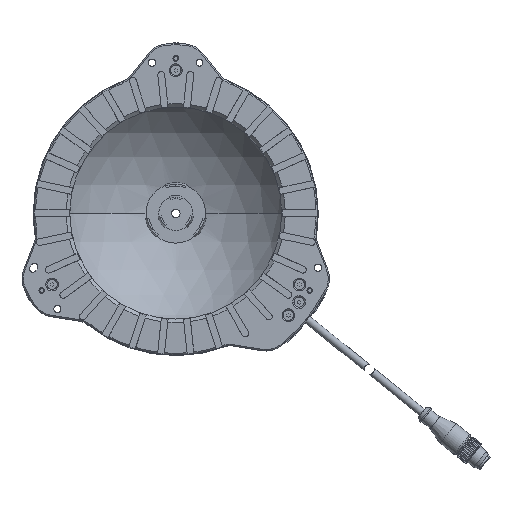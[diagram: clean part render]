
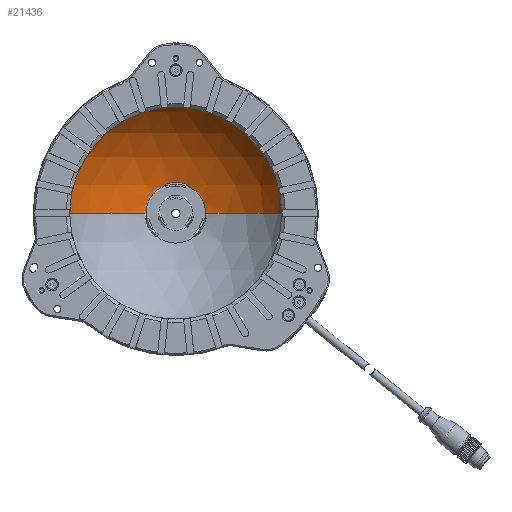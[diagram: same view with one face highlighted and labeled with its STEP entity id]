
A CAD part, top view. The second image highlights one B-rep face of the part: STEP entity #21436.
In plain terms, the highlighted spherical face has radius 77.5 mm.
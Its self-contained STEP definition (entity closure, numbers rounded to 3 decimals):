
#2306 = DIRECTION ( 'NONE',  ( -1., 0., 0. ) ) ;
#2905 = ORIENTED_EDGE ( 'NONE', *, *, #56020, .F. ) ;
#3722 = VERTEX_POINT ( 'NONE', #5471 ) ;
#4075 = VERTEX_POINT ( 'NONE', #55468 ) ;
#4220 = DIRECTION ( 'NONE',  ( -0.231, 0., 0.973 ) ) ;
#4374 = EDGE_CURVE ( 'NONE', #39775, #45916, #9208, .T. ) ;
#5403 = CARTESIAN_POINT ( 'NONE',  ( 0., 0., 7.5 ) ) ;
#5471 = CARTESIAN_POINT ( 'NONE',  ( 77.487, 0., 8.944 ) ) ;
#5761 = EDGE_CURVE ( 'NONE', #8436, #15926, #50494, .T. ) ;
#5834 = CARTESIAN_POINT ( 'NONE',  ( -1., 77.3, 12.979 ) ) ;
#6445 = VERTEX_POINT ( 'NONE', #17313 ) ;
#6610 = CIRCLE ( 'NONE', #62436, 74.989 ) ;
#7017 = B_SPLINE_CURVE_WITH_KNOTS ( 'NONE', 3,
 ( #38406, #33135, #22733, #43599, #12533, #48780, #17758, #53998 ),
 .UNSPECIFIED., .F., .F.,
 ( 4, 2, 2, 4 ),
 ( 0.019, 0.02, 0.02, 0.02 ),
 .UNSPECIFIED. ) ;
#7796 = CIRCLE ( 'NONE', #23878, 77.487 ) ;
#8436 = VERTEX_POINT ( 'NONE', #66436 ) ;
#8483 = CARTESIAN_POINT ( 'NONE',  ( 0., 0., 8.944 ) ) ;
#9208 = CIRCLE ( 'NONE', #59228, 50.521 ) ;
#9611 = CARTESIAN_POINT ( 'NONE',  ( 0.738, 77.288, 13.18 ) ) ;
#10001 = AXIS2_PLACEMENT_3D ( 'NONE', #42131, #11078, #47284 ) ;
#10626 = DIRECTION ( 'NONE',  ( -1., 0., 0. ) ) ;
#11078 = DIRECTION ( 'NONE',  ( 0., 0., 1. ) ) ;
#11169 = DIRECTION ( 'NONE',  ( -1., 0., 0. ) ) ;
#12533 = CARTESIAN_POINT ( 'NONE',  ( -0.738, 77.288, 13.18 ) ) ;
#13691 = DIRECTION ( 'NONE',  ( -1., 0., 0. ) ) ;
#14056 = DIRECTION ( 'NONE',  ( -0.948, 0.225, 0.225 ) ) ;
#14803 = CARTESIAN_POINT ( 'NONE',  ( 0.431, 77.281, 13.305 ) ) ;
#15926 = VERTEX_POINT ( 'NONE', #62651 ) ;
#16097 = CARTESIAN_POINT ( 'NONE',  ( 0., 0., 7.5 ) ) ;
#16155 = DIRECTION ( 'NONE',  ( 0., 1., 0. ) ) ;
#17313 = CARTESIAN_POINT ( 'NONE',  ( 17.5, 0., 82.998 ) ) ;
#17758 = CARTESIAN_POINT ( 'NONE',  ( -0.944, 77.296, 13.04 ) ) ;
#18284 = CARTESIAN_POINT ( 'NONE',  ( 0., 41.557, 49.057 ) ) ;
#20027 = CARTESIAN_POINT ( 'NONE',  ( 0.1, 77.28, 13.333 ) ) ;
#21285 = DIRECTION ( 'NONE',  ( 0., 0., -1. ) ) ;
#21436 = ADVANCED_FACE ( 'NONE', ( #30272 ), #61094, .F. ) ;
#22330 = EDGE_CURVE ( 'NONE', #4075, #15926, #26126, .T. ) ;
#22733 = CARTESIAN_POINT ( 'NONE',  ( -0.43, 77.281, 13.305 ) ) ;
#23485 = DIRECTION ( 'NONE',  ( 0., 0.707, -0.707 ) ) ;
#23878 = AXIS2_PLACEMENT_3D ( 'NONE', #8483, #44743, #13691 ) ;
#24662 = VERTEX_POINT ( 'NONE', #51691 ) ;
#25207 = CARTESIAN_POINT ( 'NONE',  ( -0.1, 77.28, 13.333 ) ) ;
#25236 = ORIENTED_EDGE ( 'NONE', *, *, #32160, .F. ) ;
#26126 = CIRCLE ( 'NONE', #10001, 77.487 ) ;
#26997 = VERTEX_POINT ( 'NONE', #38899 ) ;
#28974 = ORIENTED_EDGE ( 'NONE', *, *, #62769, .F. ) ;
#29480 = ORIENTED_EDGE ( 'NONE', *, *, #5761, .T. ) ;
#29768 = B_SPLINE_CURVE_WITH_KNOTS ( 'NONE', 3,
 ( #35421, #30205, #40688, #9611, #45831, #14803, #51080, #20027 ),
 .UNSPECIFIED., .F., .F.,
 ( 4, 2, 2, 4 ),
 ( 0.019, 0.019, 0.02, 0.02 ),
 .UNSPECIFIED. ) ;
#30205 = CARTESIAN_POINT ( 'NONE',  ( 0.944, 77.296, 13.04 ) ) ;
#30272 = FACE_OUTER_BOUND ( 'NONE', #66231, .T. ) ;
#31735 = CARTESIAN_POINT ( 'NONE',  ( 0., 0., 7.5 ) ) ;
#31777 = ORIENTED_EDGE ( 'NONE', *, *, #4374, .F. ) ;
#32160 = EDGE_CURVE ( 'NONE', #8436, #6445, #64998, .T. ) ;
#33046 = EDGE_CURVE ( 'NONE', #45916, #44164, #7017, .T. ) ;
#33135 = CARTESIAN_POINT ( 'NONE',  ( -0.265, 77.28, 13.334 ) ) ;
#33297 = DIRECTION ( 'NONE',  ( 0., 0., -1. ) ) ;
#35232 = DIRECTION ( 'NONE',  ( 0.948, 0.225, 0.225 ) ) ;
#35421 = CARTESIAN_POINT ( 'NONE',  ( 1., 77.3, 12.979 ) ) ;
#35482 = ORIENTED_EDGE ( 'NONE', *, *, #33046, .F. ) ;
#35810 = EDGE_CURVE ( 'NONE', #3722, #24662, #7796, .T. ) ;
#36103 = AXIS2_PLACEMENT_3D ( 'NONE', #64361, #33297, #2306 ) ;
#38406 = CARTESIAN_POINT ( 'NONE',  ( -0.1, 77.28, 13.333 ) ) ;
#38899 = CARTESIAN_POINT ( 'NONE',  ( 1., 77.3, 12.979 ) ) ;
#38975 = AXIS2_PLACEMENT_3D ( 'NONE', #5403, #41680, #10626 ) ;
#39207 = ORIENTED_EDGE ( 'NONE', *, *, #46400, .F. ) ;
#39775 = VERTEX_POINT ( 'NONE', #48655 ) ;
#40408 = ORIENTED_EDGE ( 'NONE', *, *, #35810, .F. ) ;
#40688 = CARTESIAN_POINT ( 'NONE',  ( 0.878, 77.293, 13.092 ) ) ;
#41680 = DIRECTION ( 'NONE',  ( 0., 1., 0. ) ) ;
#42131 = CARTESIAN_POINT ( 'NONE',  ( 0., 0., 8.944 ) ) ;
#43599 = CARTESIAN_POINT ( 'NONE',  ( -0.664, 77.286, 13.217 ) ) ;
#44164 = VERTEX_POINT ( 'NONE', #5834 ) ;
#44743 = DIRECTION ( 'NONE',  ( 0., 0., 1. ) ) ;
#45084 = CARTESIAN_POINT ( 'NONE',  ( -18.553, 4.402, 11.902 ) ) ;
#45831 = CARTESIAN_POINT ( 'NONE',  ( 0.663, 77.286, 13.217 ) ) ;
#45916 = VERTEX_POINT ( 'NONE', #25207 ) ;
#46400 = EDGE_CURVE ( 'NONE', #44164, #4075, #6610, .T. ) ;
#47284 = DIRECTION ( 'NONE',  ( -1., 0., 0. ) ) ;
#48655 = CARTESIAN_POINT ( 'NONE',  ( 0.1, 77.28, 13.333 ) ) ;
#48780 = CARTESIAN_POINT ( 'NONE',  ( -0.878, 77.293, 13.092 ) ) ;
#50302 = DIRECTION ( 'NONE',  ( -0.231, 0., -0.973 ) ) ;
#50494 = CIRCLE ( 'NONE', #54696, 77.5 ) ;
#51080 = CARTESIAN_POINT ( 'NONE',  ( 0.265, 77.28, 13.334 ) ) ;
#51579 = AXIS2_PLACEMENT_3D ( 'NONE', #66266, #35232, #4220 ) ;
#51691 = CARTESIAN_POINT ( 'NONE',  ( 1.919, 77.463, 8.944 ) ) ;
#52352 = DIRECTION ( 'NONE',  ( 0., -1., 0. ) ) ;
#53360 = AXIS2_PLACEMENT_3D ( 'NONE', #31735, #16155, #11169 ) ;
#53495 = CIRCLE ( 'NONE', #38975, 77.5 ) ;
#53998 = CARTESIAN_POINT ( 'NONE',  ( -1., 77.3, 12.979 ) ) ;
#54542 = DIRECTION ( 'NONE',  ( 0., 0.707, 0.707 ) ) ;
#54696 = AXIS2_PLACEMENT_3D ( 'NONE', #16097, #52352, #21285 ) ;
#55468 = CARTESIAN_POINT ( 'NONE',  ( -1.919, 77.463, 8.944 ) ) ;
#56020 = EDGE_CURVE ( 'NONE', #6445, #3722, #53495, .T. ) ;
#56377 = EDGE_CURVE ( 'NONE', #24662, #26997, #63194, .T. ) ;
#58342 = ORIENTED_EDGE ( 'NONE', *, *, #22330, .F. ) ;
#59228 = AXIS2_PLACEMENT_3D ( 'NONE', #18284, #54542, #23485 ) ;
#59499 = ORIENTED_EDGE ( 'NONE', *, *, #56377, .F. ) ;
#61094 = SPHERICAL_SURFACE ( 'NONE', #53360, 77.5 ) ;
#62436 = AXIS2_PLACEMENT_3D ( 'NONE', #45084, #14056, #50302 ) ;
#62651 = CARTESIAN_POINT ( 'NONE',  ( -77.487, 0., 8.944 ) ) ;
#62769 = EDGE_CURVE ( 'NONE', #26997, #39775, #29768, .T. ) ;
#63194 = CIRCLE ( 'NONE', #51579, 74.989 ) ;
#64361 = CARTESIAN_POINT ( 'NONE',  ( 0., 0., 82.998 ) ) ;
#64998 = CIRCLE ( 'NONE', #36103, 17.5 ) ;
#66231 = EDGE_LOOP ( 'NONE', ( #2905, #25236, #29480, #58342, #39207, #35482, #31777, #28974, #59499, #40408 ) ) ;
#66266 = CARTESIAN_POINT ( 'NONE',  ( 18.553, 4.402, 11.902 ) ) ;
#66436 = CARTESIAN_POINT ( 'NONE',  ( -17.5, 0., 82.998 ) ) ;
